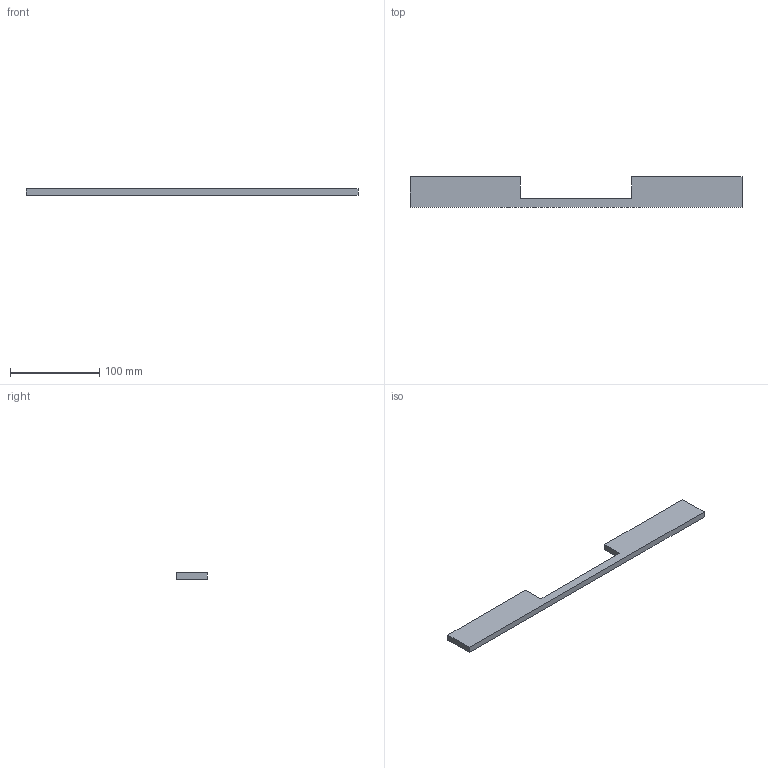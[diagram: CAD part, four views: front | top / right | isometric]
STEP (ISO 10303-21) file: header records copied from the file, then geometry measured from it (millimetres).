
FILE_DESCRIPTION( ( 'STEP AP214' ), '1' );
FILE_NAME( 'D:/D Drive/Yug/2023/ProDecor/Handle_Velitra/QC/115016.stp', '2023-06-05T09:59:11', ( '' ), ( '' ), ' ', 'PARTsolutions', ' ' );
FILE_SCHEMA( ( 'AUTOMOTIVE_DESIGN { 1 0 10303 214 1 1 1 1 }' ) );
Length unit declared in the file: millimetre
Products named in the file (1): _115016
Bounding box: 372 x 34 x 7 mm (x, y, z)
Volume: 67033.3 mm3; surface area: 25818.7 mm2
Topology: 1 solids, 1 shells, 18 faces, 36 edges, 24 vertices
Faces by surface type: plane 14, cylinder 4
Full cylindrical faces by diameter (mm): 4 x4
Entity records: 608 total; most frequent: DIRECTION 78, CARTESIAN_POINT 75, ORIENTED_EDGE 64, EDGE_CURVE 32, AXIS2_PLACEMENT_3D 27, EDGE_LOOP 26, VERTEX_POINT 24, LINE 24
